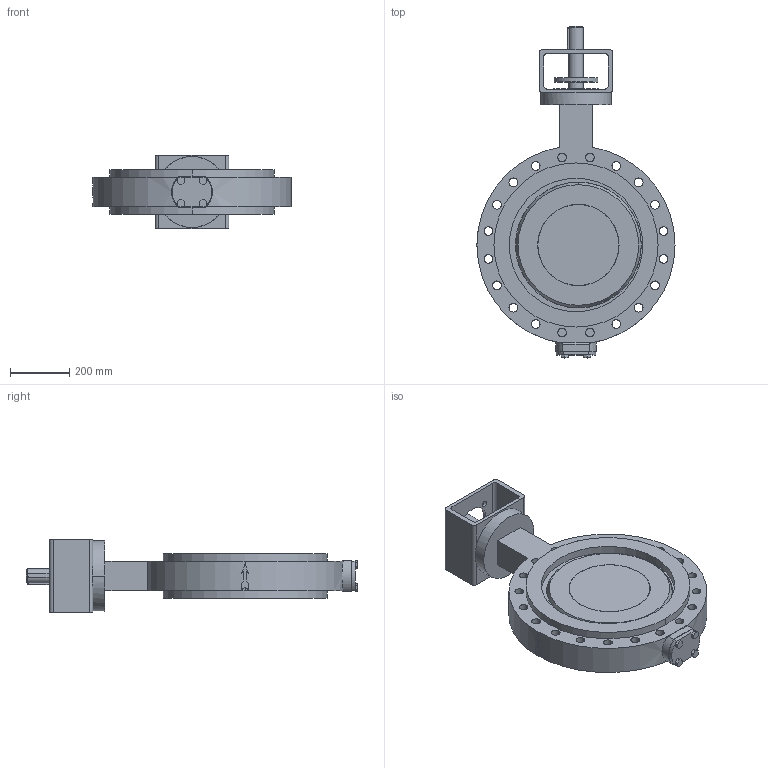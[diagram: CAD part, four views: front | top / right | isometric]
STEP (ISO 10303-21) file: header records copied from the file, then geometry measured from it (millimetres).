
FILE_DESCRIPTION( ( '' ), '1' );
FILE_NAME( 'F:/DE-SHS/TB/OR/04-Sonstiges/daten/files_3d/018_ZETRIX-PN10_freiesWellende/c000006376.stp', '2016-09-01T11:05:26', ( '' ), ( '' ), ' ', ' ', ' ' );
FILE_SCHEMA( ( 'CONFIG_CONTROL_DESIGN' ) );
Length unit declared in the file: millimetre
Products named in the file (1): 1
Bounding box: 670 x 1123.1 x 248 mm (x, y, z)
Volume: 39983563.2 mm3; surface area: 2025551.6 mm2
Topology: 1 solids, 1 shells, 261 faces, 688 edges, 451 vertices
Faces by surface type: cylinder 133, plane 120, cone 4, sphere 4
Entity records: 9218 total; most frequent: CARTESIAN_POINT 2397, DIRECTION 1468, ORIENTED_EDGE 1376, EDGE_CURVE 688, AXIS2_PLACEMENT_3D 554, VERTEX_POINT 451, LINE 360, VECTOR 360
